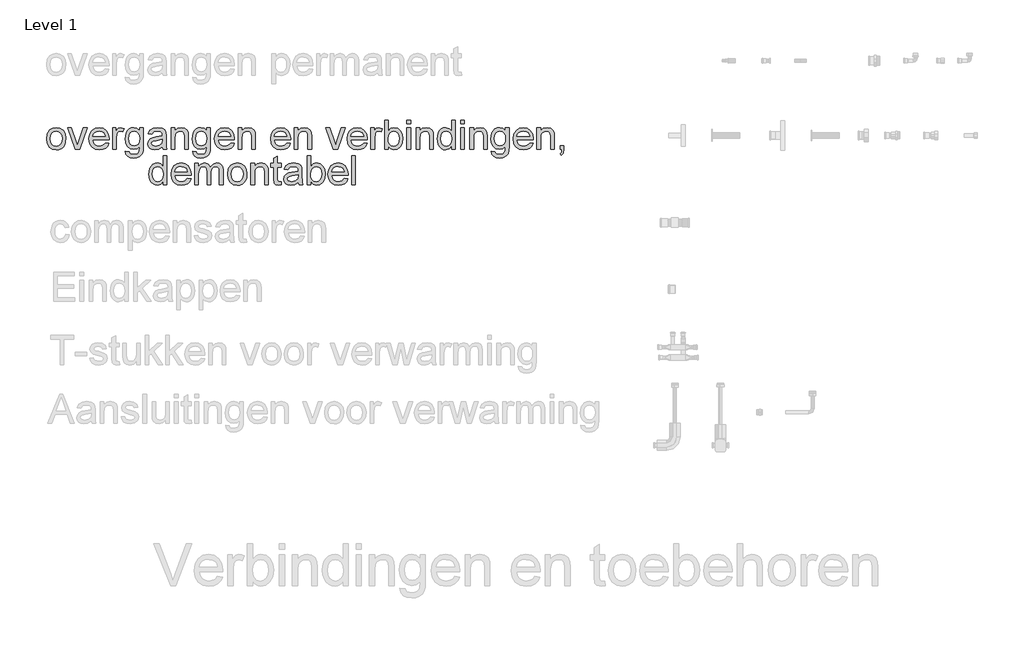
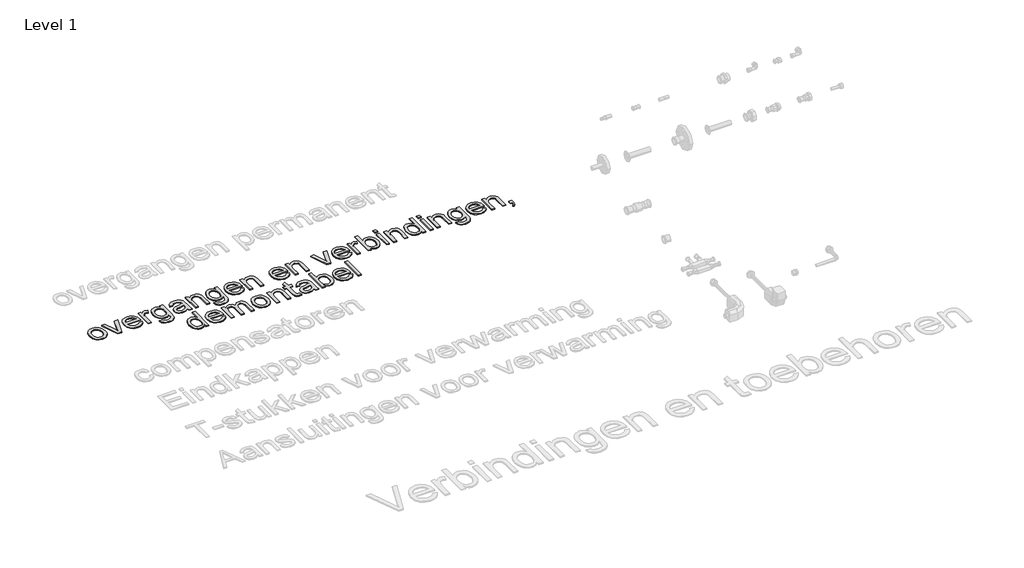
# One storey, part 7 of 8: 1 proxy.
"""IFC4 building model written with IfcOpenShell, lengths in millimetres."""

import ifcopenshell
import ifcopenshell.guid

model = None  # the IFC model being written
_history = None  # IfcOwnerHistory: only IFC2X3 demands one
_inside = {}  # id of a spatial element -> (the spatial element, [elements in it])
_under = {}  # id of a project, library or spatial element -> (it, [spatial elements below it])
_declared = {}  # id of a project -> (the project, [libraries it declares])
_typed = {}  # id of a type object -> (the type object, [elements of that type])
_made_of = {}  # id of a material, layer set ... -> (it, [elements and type objects made of it])


def new_model(schema):
    """Start an empty IFC model of exactly this schema.

    Asked for "IFC4X3", IfcOpenShell would pick the latest addendum, in which some entities
    have other attributes; the version numbers below select the first issue.
    IFC2X3 requires an IfcOwnerHistory on every rooted entity: one is made here for all.
    """
    global model, _history
    if schema == "IFC4X3":
        model = ifcopenshell.file(schema_version=(4, 3, 0, 0))
    else:
        model = ifcopenshell.file(schema=schema)
    _inside.clear()
    _under.clear()
    _declared.clear()
    _typed.clear()
    _made_of.clear()
    _history = None
    if model.schema == "IFC2X3":
        org = make("IfcOrganization", Name="unknown")
        user = make(
            "IfcPersonAndOrganization",
            ThePerson=make("IfcPerson", FamilyName="unknown"),
            TheOrganization=org,
        )
        app = make(
            "IfcApplication",
            ApplicationDeveloper=org,
            Version="unknown",
            ApplicationFullName="unknown",
            ApplicationIdentifier="unknown",
        )
        _history = make(
            "IfcOwnerHistory",
            OwningUser=user,
            OwningApplication=app,
            ChangeAction="ADDED",
            CreationDate=0,
        )
    return model


def make(cls, **values):
    """One entity of the class cls with the attributes given. An attribute that is None is left unset."""
    return model.create_entity(
        cls, **{name: value for name, value in values.items() if value is not None}
    )


def rooted(cls, **values):
    """An entity with a GlobalId (a new one), such as an element, a storey or a relation."""
    return make(cls, GlobalId=ifcopenshell.guid.new(), OwnerHistory=_history, **values)


def si_unit(unit_type, name, prefix=None):
    """IfcSIUnit, for example si_unit("LENGTHUNIT", "METRE", prefix="MILLI")."""
    return make("IfcSIUnit", UnitType=unit_type, Prefix=prefix, Name=name)


def assignment(units):
    """IfcUnitAssignment: the units of a project."""
    return None if units is None else make("IfcUnitAssignment", Units=units)


def point(xyz):
    """IfcCartesianPoint."""
    return None if xyz is None else make("IfcCartesianPoint", Coordinates=xyz)


def direction(xyz):
    """IfcDirection."""
    return None if xyz is None else make("IfcDirection", DirectionRatios=xyz)


def frame(location, z_axis=None, x_axis=None):
    """IfcAxis2Placement3D, a coordinate frame: its origin and axes. An axis left out is left unset."""
    return make(
        "IfcAxis2Placement3D",
        Location=point(location),
        Axis=direction(z_axis),
        RefDirection=direction(x_axis),
    )


def origin():
    """The frame at (0, 0, 0) with its axes left unset."""
    return frame((0.0, 0.0, 0.0))


def origin_with_axes():
    """The frame at (0, 0, 0) with the z axis (0, 0, 1) and the x axis (1, 0, 0) written out."""
    return frame((0.0, 0.0, 0.0), z_axis=(0.0, 0.0, 1.0), x_axis=(1.0, 0.0, 0.0))


def place(relative_to, where):
    """IfcLocalPlacement: puts the frame where relative to a parent placement (None: the world)."""
    return make(
        "IfcLocalPlacement", PlacementRelTo=relative_to, RelativePlacement=where
    )


def context(
    kind, dimensions, precision=None, world=None, true_north=None, identifier=None
):
    """IfcGeometricRepresentationContext, for example the 3D "Model" context."""
    return make(
        "IfcGeometricRepresentationContext",
        ContextIdentifier=identifier,
        ContextType=kind,
        CoordinateSpaceDimension=dimensions,
        Precision=precision,
        WorldCoordinateSystem=world,
        TrueNorth=true_north,
    )


def project(units=None, contexts=None):
    """IfcProject with its units and contexts."""
    return rooted(
        "IfcProject",
        Name="project",
        RepresentationContexts=contexts,
        UnitsInContext=assignment(units),
    )


def spatial(cls, under=None, at=None, **own):
    """A site, building, storey or space (cls), placed at a placement, below another one or the project."""
    s = rooted(cls, ObjectPlacement=at, **own)
    if under is not None:
        _under.setdefault(under.id(), (under, []))[1].append(s)
    return s


def polyline(points):
    """IfcPolyline through the points."""
    return make("IfcPolyline", Points=[point(p) for p in points])


def outline(outer, holes=None, kind="AREA"):
    """IfcArbitraryClosedProfileDef: a profile drawn as a closed curve; with holes, ...WithVoids."""
    if holes is None:
        return make("IfcArbitraryClosedProfileDef", ProfileType=kind, OuterCurve=outer)
    return make(
        "IfcArbitraryProfileDefWithVoids",
        ProfileType=kind,
        OuterCurve=outer,
        InnerCurves=holes,
    )


def extrude(swept, where, along, depth):
    """IfcExtrudedAreaSolid: the profile swept, set in the frame where, extruded along a direction by depth."""
    return make(
        "IfcExtrudedAreaSolid",
        SweptArea=swept,
        Position=where,
        ExtrudedDirection=direction(along),
        Depth=depth,
    )


def shape(context_of_items, identifier, shape_type, items):
    """IfcShapeRepresentation: the items that make up one representation, for example the "Body"."""
    return make(
        "IfcShapeRepresentation",
        ContextOfItems=context_of_items,
        RepresentationIdentifier=identifier,
        RepresentationType=shape_type,
        Items=items,
    )


def made_of(thing, what):
    """Note that an element or type object is made of a material, layer set ...; save() writes the relation."""
    if what is not None:
        _made_of.setdefault(what.id(), (what, []))[1].append(thing)
    return thing


def element(
    cls,
    number,
    at=None,
    inside=None,
    cuts=None,
    type_object=None,
    material=None,
    context=None,
    identifier="Body",
    shape_type=None,
    held_by="IfcProductDefinitionShape",
    body=None,
    shapes=None,
    **own,
):
    """One element of the class cls, such as IfcWall. Its Tag is "e" and its number.

    at: its placement. inside: the storey or other place that contains it. cuts: it is an
    opening in that element (IfcRelVoidsElement). A single representation is given by context,
    identifier, shape_type and body (its items); several are given by shapes. held_by: the class
    of the entity that holds the representations. save() writes the other relations.
    """
    e = rooted(cls, Tag="e%d" % number, ObjectPlacement=at, **own)
    if body is not None:
        shapes = [shape(context, identifier, shape_type, body)]
    if shapes is not None:
        e.Representation = make(held_by, Representations=shapes)
    if inside is not None:
        _inside.setdefault(inside.id(), (inside, []))[1].append(e)
    if cuts is not None:
        rooted(
            "IfcRelVoidsElement", RelatingBuildingElement=cuts, RelatedOpeningElement=e
        )
    if type_object is not None:
        _typed.setdefault(type_object.id(), (type_object, []))[1].append(e)
    return made_of(e, material)


def aggregate(whole, parts):
    """IfcRelAggregates: a whole, such as a stair, and the parts it consists of."""
    return rooted("IfcRelAggregates", RelatingObject=whole, RelatedObjects=parts)


def save(model, path):
    """Write the relations noted so far, then the file.

    IfcRelAggregates (storeys below a building ...), IfcRelContainedInSpatialStructure (elements
    in a storey), IfcRelDefinesByType, IfcRelAssociatesMaterial and IfcRelDeclares: one each for
    every whole, place, type object, material and project.
    """
    for whole, parts in _under.values():
        aggregate(whole, parts)
    for where, things in _inside.values():
        rooted(
            "IfcRelContainedInSpatialStructure",
            RelatedElements=things,
            RelatingStructure=where,
        )
    for kind, things in _typed.values():
        rooted("IfcRelDefinesByType", RelatedObjects=things, RelatingType=kind)
    for what, things in _made_of.values():
        rooted("IfcRelAssociatesMaterial", RelatedObjects=things, RelatingMaterial=what)
    for by, libraries in _declared.values():
        rooted("IfcRelDeclares", RelatingContext=by, RelatedDefinitions=libraries)
    model.write(path)


model = new_model("IFC4")

# Units and contexts
model_context = context("Model", 3, world=origin())
ifc_project = project(units=[si_unit("LENGTHUNIT", "METRE", prefix="MILLI")], contexts=[model_context])

# Site, building, storey
site = spatial("IfcSite", under=ifc_project)
building = spatial("IfcBuilding", under=site)
storey = spatial("IfcBuildingStorey", under=building, Name="Level 1", Elevation=0.0)

# Proxy
placement = place(None, origin())
element("IfcBuildingElementProxy", 1, Name="small", ObjectType="small", at=placement, inside=storey, context=model_context, shape_type="SweptSolid", body=[
    extrude(outline(polyline([(2634.8228033, 5275.2037382), (2638.6254769, 5300.1056705), (2650.0334976, 5317.6082695), (2664.1282831, 5326.1835988), (2681.0042565, 5329.0420419), (2699.4725458, 5325.5612651), (2714.2240006, 5315.1189347), (2723.8937789, 5298.5391063), (2727.1170383, 5276.6458356), (2725.6921087, 5258.8857192), (2721.4173199, 5245.3660559), (2714.4171387, 5235.2413302), (2704.8160318, 5227.6660268), (2693.412303, 5222.9405826), (2681.0042565, 5221.3654345), (2662.3127854, 5224.8333354), (2647.5784984, 5235.2370383), (2638.0117271, 5252.1645151), (2634.8228033, 5275.2037382)]), holes=[polyline([(2652.4026576, 5275.2380739), (2654.4370451, 5259.3277907), (2660.5402074, 5247.9927333), (2669.7249945, 5241.2071499), (2681.0042565, 5238.9452888), (2692.232015, 5241.2200258), (2701.3996343, 5248.0442368), (2707.5027966, 5259.5295127), (2709.537184, 5275.7874443), (2707.4899207, 5291.2341961), (2701.3481308, 5302.4147431), (2692.1676356, 5309.2003265), (2681.0042565, 5311.4621877), (2669.7249945, 5309.2089104), (2660.5402074, 5302.4490788), (2654.4370451, 5291.1397731), (2652.4026576, 5275.2380739)])]), origin_with_axes(), (0.0, 0.0, 1.0), 5.0),
    extrude(outline(polyline([(2772.2340862, 5223.5629163), (2735.9069654, 5326.8445601), (2754.5168893, 5326.8445601), (2776.5260428, 5264.9717136), (2783.1528238, 5244.164308), (2789.6422622, 5263.8043014), (2811.7887583, 5326.8445601), (2830.3986822, 5326.8445601), (2794.5179249, 5223.5629163), (2772.2340862, 5223.5629163)])), origin_with_axes(), (0.0, 0.0, 1.0), 5.0),
    extrude(outline(polyline([(2918.0919396, 5254.3276613), (2935.3284374, 5252.1301795), (2929.1179762, 5239.1427188), (2919.2078484, 5229.4343129), (2905.8212357, 5223.3826541), (2889.1813199, 5221.3654345), (2868.5541764, 5224.8462113), (2852.6825209, 5235.2885417), (2842.5620872, 5252.0142966), (2839.1886093, 5274.3453469), (2842.5964229, 5297.4274895), (2852.8198635, 5314.689739), (2868.4769212, 5325.4539662), (2888.185586, 5329.0420419), (2907.2805009, 5325.4625501), (2922.5384067, 5314.7240747), (2932.5429575, 5297.4961608), (2935.8778078, 5274.4483538), (2935.7748009, 5269.7100337), (2856.7684636, 5269.7100337), (2859.8114608, 5256.5508948), (2866.8803134, 5246.8768246), (2877.0822942, 5240.9281727), (2889.5246764, 5238.9452888), (2906.7611742, 5242.6192036), (2918.0919396, 5254.3276613)]), holes=[polyline([(2856.7684636, 5287.289888), (2918.2979536, 5287.289888), (2911.2591447, 5303.221631), (2901.0099523, 5309.4020485), (2888.1169147, 5311.4621877), (2876.2668225, 5309.8183683), (2866.4682855, 5304.8869101), (2859.6569504, 5297.2000158), (2856.7684636, 5287.289888)])]), origin_with_axes(), (0.0, 0.0, 1.0), 5.0),
    extrude(outline(polyline([(2953.4576621, 5223.5629163), (2953.4576621, 5326.8445601), (2968.8400346, 5326.8445601), (2968.8400346, 5311.5651946), (2979.7587722, 5325.6428123), (2990.7461811, 5329.0420419), (3008.3947067, 5323.6170088), (3002.5233101, 5307.8569441), (2990.162475, 5311.4621877), (2980.2223035, 5307.9942867), (2973.8873756, 5298.3803039), (2971.0375164, 5277.8475835), (2971.0375164, 5223.5629163), (2953.4576621, 5223.5629163)])), origin_with_axes(), (0.0, 0.0, 1.0), 5.0),
    extrude(outline(polyline([(3014.9871521, 5214.7729891), (3032.5670063, 5212.5755073), (3038.2667247, 5203.3048811), (3055.3315442, 5199.3906166), (3073.3234263, 5203.8199159), (3081.9073395, 5216.2494222), (3083.1090874, 5236.747807), (3070.7310845, 5226.8591389), (3055.6405651, 5223.5629163), (3037.5156323, 5227.3999255), (3024.000261, 5238.9109531), (3015.592318, 5255.7869265), (3012.7896703, 5275.718773), (3017.8198434, 5302.9641136), (3023.9745092, 5314.0244857), (3032.3781603, 5322.2435827), (3042.7432355, 5327.3424271), (3054.7821738, 5329.0420419), (3070.4649832, 5325.1964488), (3083.1090874, 5313.6596694), (3083.1090874, 5326.8445601), (3100.6889417, 5326.8445601), (3100.6889417, 5237.6748696), (3099.4871938, 5217.0863537), (3095.8819503, 5203.5280628), (3089.671489, 5194.5364137), (3080.6540882, 5187.6478234), (3069.0271778, 5183.2700276), (3054.9881877, 5181.8107624), (3038.631541, 5183.8666096), (3025.7513793, 5190.0341512), (3017.4893628, 5200.3305551), (3014.9871521, 5214.7729891)]), holes=[polyline([(3030.3695246, 5276.9205209), (3032.2451096, 5260.7956399), (3037.8718647, 5249.7095159), (3046.3313112, 5243.2844569), (3056.7049703, 5241.1427705), (3067.0013742, 5243.271581), (3075.5037403, 5249.6580125), (3081.2077506, 5260.6025018), (3083.1090874, 5276.4054861), (3081.1519552, 5291.646224), (3075.2805585, 5302.620757), (3066.6537257, 5309.25183), (3056.4302851, 5311.4621877), (3046.3913986, 5309.2861657), (3037.9748717, 5302.7580996), (3032.2708613, 5291.9466609), (3030.3695246, 5276.9205209)])]), origin_with_axes(), (0.0, 0.0, 1.0), 5.0),
    extrude(outline(polyline([(3192.9831766, 5236.747807), (3175.935525, 5224.8333354), (3157.1024194, 5221.3654345), (3142.4110519, 5223.4513254), (3131.5738614, 5229.7089981), (3124.891285, 5239.2113901), (3122.6637595, 5251.0314386), (3126.0286535, 5264.937378), (3134.8700841, 5275.0320599), (3147.1794157, 5280.8004496), (3162.3901099, 5283.4442949), (3192.8801697, 5289.4873698), (3192.9831766, 5293.4016342), (3191.7728449, 5301.2473309), (3188.1418496, 5306.380511), (3180.0214677, 5310.1917685), (3168.70787, 5311.4621877), (3150.9220018, 5308.0801258), (3142.4410956, 5296.0798152), (3124.8612413, 5298.2772969), (3132.4665884, 5315.4451234), (3147.7802896, 5325.5054697), (3170.9740231, 5329.0420419), (3192.2792957, 5325.9174975), (3204.3139421, 5318.0718008), (3209.7046396, 5306.1401615), (3210.5630309, 5290.757789), (3210.5630309, 5268.8859781), (3211.4557579, 5238.3444148), (3214.9579945, 5223.5629163), (3197.3781402, 5223.5629163), (3192.9831766, 5236.747807)]), holes=[polyline([(3192.9831766, 5271.9075155), (3164.6219273, 5266.516818), (3149.4970722, 5263.6669588), (3142.6471095, 5259.0316457), (3140.2436138, 5252.2675221), (3145.4798009, 5242.7565462), (3160.8450055, 5238.9452888), (3178.6308737, 5243.1514062), (3190.0989818, 5253.3319273), (3192.8801697, 5266.9288459), (3192.9831766, 5271.9075155)])]), origin_with_axes(), (0.0, 0.0, 1.0), 5.0),
    extrude(outline(polyline([(3234.7353305, 5223.5629163), (3234.7353305, 5326.8445601), (3252.3151848, 5326.8445601), (3252.3151848, 5312.4235859), (3265.7575929, 5324.8874279), (3284.1099994, 5329.0420419), (3300.7112875, 5325.6943158), (3312.042053, 5316.9043886), (3317.3125757, 5303.9770153), (3318.2396383, 5286.9808671), (3318.2396383, 5223.5629163), (3300.6597841, 5223.5629163), (3300.6597841, 5284.6117071), (3298.6339805, 5300.1657579), (3291.4749969, 5308.3891467), (3279.4060149, 5311.4621877), (3269.109611, 5309.7368211), (3260.3325597, 5304.5607214), (3254.3195285, 5294.5604625), (3252.3151848, 5278.3626183), (3252.3151848, 5223.5629163), (3234.7353305, 5223.5629163)])), origin_with_axes(), (0.0, 0.0, 1.0), 5.0),
    extrude(outline(polyline([(3338.0169744, 5214.7729891), (3355.5968287, 5212.5755073), (3361.2965471, 5203.3048811), (3378.3613665, 5199.3906166), (3396.3532486, 5203.8199159), (3404.9371619, 5216.2494222), (3406.1389097, 5236.747807), (3393.7609069, 5226.8591389), (3378.6703874, 5223.5629163), (3360.5454546, 5227.3999255), (3347.0300833, 5238.9109531), (3338.6221403, 5255.7869265), (3335.8194926, 5275.718773), (3340.8496658, 5302.9641136), (3347.0043315, 5314.0244857), (3355.4079826, 5322.2435827), (3365.7730578, 5327.3424271), (3377.8119961, 5329.0420419), (3393.4948055, 5325.1964488), (3406.1389097, 5313.6596694), (3406.1389097, 5326.8445601), (3423.718764, 5326.8445601), (3423.718764, 5237.6748696), (3422.5170161, 5217.0863537), (3418.9117726, 5203.5280628), (3412.7013114, 5194.5364137), (3403.6839105, 5187.6478234), (3392.0570001, 5183.2700276), (3378.01801, 5181.8107624), (3361.6613634, 5183.8666096), (3348.7812016, 5190.0341512), (3340.5191851, 5200.3305551), (3338.0169744, 5214.7729891)]), holes=[polyline([(3353.3993469, 5276.9205209), (3355.2749319, 5260.7956399), (3360.901687, 5249.7095159), (3369.3611335, 5243.2844569), (3379.7347926, 5241.1427705), (3390.0311966, 5243.271581), (3398.5335626, 5249.6580125), (3404.2375729, 5260.6025018), (3406.1389097, 5276.4054861), (3404.1817775, 5291.646224), (3398.3103809, 5302.620757), (3389.6835481, 5309.25183), (3379.4601074, 5311.4621877), (3369.4212209, 5309.2861657), (3361.004694, 5302.7580996), (3355.3006837, 5291.9466609), (3353.3993469, 5276.9205209)])]), origin_with_axes(), (0.0, 0.0, 1.0), 5.0),
    extrude(outline(polyline([(3522.3994304, 5254.3276613), (3539.6359281, 5252.1301795), (3533.4254669, 5239.1427188), (3523.5153391, 5229.4343129), (3510.1287264, 5223.3826541), (3493.4888107, 5221.3654345), (3472.8616672, 5224.8462113), (3456.9900116, 5235.2885417), (3446.8695779, 5252.0142966), (3443.4961001, 5274.3453469), (3446.9039136, 5297.4274895), (3457.1273542, 5314.689739), (3472.784412, 5325.4539662), (3492.4930767, 5329.0420419), (3511.5879917, 5325.4625501), (3526.8458974, 5314.7240747), (3536.8504483, 5297.4961608), (3540.1852986, 5274.4483538), (3540.0822916, 5269.7100337), (3461.0759543, 5269.7100337), (3464.1189516, 5256.5508948), (3471.1878041, 5246.8768246), (3481.389785, 5240.9281727), (3493.8321672, 5238.9452888), (3511.0686649, 5242.6192036), (3522.3994304, 5254.3276613)]), holes=[polyline([(3461.0759543, 5287.289888), (3522.6054443, 5287.289888), (3515.5666355, 5303.221631), (3505.3174431, 5309.4020485), (3492.4244054, 5311.4621877), (3480.5743132, 5309.8183683), (3470.7757763, 5304.8869101), (3463.9644411, 5297.2000158), (3461.0759543, 5287.289888)])]), origin_with_axes(), (0.0, 0.0, 1.0), 5.0),
    extrude(outline(polyline([(3557.7651528, 5223.5629163), (3557.7651528, 5326.8445601), (3575.3450071, 5326.8445601), (3575.3450071, 5312.4235859), (3588.7874152, 5324.8874279), (3607.1398217, 5329.0420419), (3623.7411099, 5325.6943158), (3635.0718753, 5316.9043886), (3640.342398, 5303.9770153), (3641.2694607, 5286.9808671), (3641.2694607, 5223.5629163), (3623.6896064, 5223.5629163), (3623.6896064, 5284.6117071), (3621.6638029, 5300.1657579), (3614.5048192, 5308.3891467), (3602.4358373, 5311.4621877), (3592.1394333, 5309.7368211), (3583.3623821, 5304.5607214), (3577.3493509, 5294.5604625), (3575.3450071, 5278.3626183), (3575.3450071, 5223.5629163), (3557.7651528, 5223.5629163)])), origin_with_axes(), (0.0, 0.0, 1.0), 5.0),
    extrude(outline(polyline([(3792.6896899, 5254.3276613), (3809.9261876, 5252.1301795), (3803.7157264, 5239.1427188), (3793.8055986, 5229.4343129), (3780.4189859, 5223.3826541), (3763.7790701, 5221.3654345), (3743.1519267, 5224.8462113), (3727.2802711, 5235.2885417), (3717.1598374, 5252.0142966), (3713.7863596, 5274.3453469), (3717.1941731, 5297.4274895), (3727.4176137, 5314.689739), (3743.0746715, 5325.4539662), (3762.7833362, 5329.0420419), (3781.8782512, 5325.4625501), (3797.1361569, 5314.7240747), (3807.1407078, 5297.4961608), (3810.4755581, 5274.4483538), (3810.3725511, 5269.7100337), (3731.3662138, 5269.7100337), (3734.4092111, 5256.5508948), (3741.4780636, 5246.8768246), (3751.6800445, 5240.9281727), (3764.1224267, 5238.9452888), (3781.3589244, 5242.6192036), (3792.6896899, 5254.3276613)]), holes=[polyline([(3731.3662138, 5287.289888), (3792.8957038, 5287.289888), (3785.856895, 5303.221631), (3775.6077026, 5309.4020485), (3762.7146649, 5311.4621877), (3750.8645727, 5309.8183683), (3741.0660358, 5304.8869101), (3734.2547006, 5297.2000158), (3731.3662138, 5287.289888)])]), origin_with_axes(), (0.0, 0.0, 1.0), 5.0),
    extrude(outline(polyline([(3828.0554123, 5223.5629163), (3828.0554123, 5326.8445601), (3845.6352666, 5326.8445601), (3845.6352666, 5312.4235859), (3859.0776747, 5324.8874279), (3877.4300812, 5329.0420419), (3894.0313694, 5325.6943158), (3905.3621348, 5316.9043886), (3910.6326575, 5303.9770153), (3911.5597202, 5286.9808671), (3911.5597202, 5223.5629163), (3893.9798659, 5223.5629163), (3893.9798659, 5284.6117071), (3891.9540624, 5300.1657579), (3884.7950787, 5308.3891467), (3872.7260967, 5311.4621877), (3862.4296928, 5309.7368211), (3853.6526416, 5304.5607214), (3847.6396104, 5294.5604625), (3845.6352666, 5278.3626183), (3845.6352666, 5223.5629163), (3828.0554123, 5223.5629163)])), origin_with_axes(), (0.0, 0.0, 1.0), 5.0),
    extrude(outline(polyline([(4016.0087762, 5223.5629163), (3979.6816555, 5326.8445601), (3998.2915793, 5326.8445601), (4020.3007328, 5264.9717136), (4026.9275138, 5244.164308), (4033.4169522, 5263.8043014), (4055.5634483, 5326.8445601), (4074.1733722, 5326.8445601), (4038.2926149, 5223.5629163), (4016.0087762, 5223.5629163)])), origin_with_axes(), (0.0, 0.0, 1.0), 5.0),
    extrude(outline(polyline([(4161.8666297, 5254.3276613), (4179.1031274, 5252.1301795), (4172.8926662, 5239.1427188), (4162.9825384, 5229.4343129), (4149.5959257, 5223.3826541), (4132.9560099, 5221.3654345), (4112.3288665, 5224.8462113), (4096.4572109, 5235.2885417), (4086.3367772, 5252.0142966), (4082.9632994, 5274.3453469), (4086.3711129, 5297.4274895), (4096.5945535, 5314.689739), (4112.2516113, 5325.4539662), (4131.960276, 5329.0420419), (4151.055191, 5325.4625501), (4166.3130967, 5314.7240747), (4176.3176476, 5297.4961608), (4179.6524979, 5274.4483538), (4179.5494909, 5269.7100337), (4100.5431536, 5269.7100337), (4103.5861509, 5256.5508948), (4110.6550034, 5246.8768246), (4120.8569843, 5240.9281727), (4133.2993665, 5238.9452888), (4150.5358642, 5242.6192036), (4161.8666297, 5254.3276613)]), holes=[polyline([(4100.5431536, 5287.289888), (4162.0726436, 5287.289888), (4155.0338348, 5303.221631), (4144.7846424, 5309.4020485), (4131.8916047, 5311.4621877), (4120.0415125, 5309.8183683), (4110.2429756, 5304.8869101), (4103.4316404, 5297.2000158), (4100.5431536, 5287.289888)])]), origin_with_axes(), (0.0, 0.0, 1.0), 5.0),
    extrude(outline(polyline([(4197.2323521, 5223.5629163), (4197.2323521, 5326.8445601), (4212.6147246, 5326.8445601), (4212.6147246, 5311.5651946), (4223.5334623, 5325.6428123), (4234.5208712, 5329.0420419), (4252.1693968, 5323.6170088), (4246.2980001, 5307.8569441), (4233.9371651, 5311.4621877), (4223.9969936, 5307.9942867), (4217.6620656, 5298.3803039), (4214.8122064, 5277.8475835), (4214.8122064, 5223.5629163), (4197.2323521, 5223.5629163)])), origin_with_axes(), (0.0, 0.0, 1.0), 5.0),
    extrude(outline(polyline([(4280.73666, 5223.5629163), (4263.1568057, 5223.5629163), (4263.1568057, 5364.2017505), (4280.73666, 5364.2017505), (4280.73666, 5312.0458938), (4293.0459915, 5324.7930049), (4308.3425249, 5329.0420419), (4325.9567148, 5325.2136166), (4339.6223047, 5314.4493895), (4348.0173718, 5297.7107587), (4351.0560771, 5276.7488426), (4347.9100729, 5253.2804238), (4338.4720603, 5235.8207444), (4324.6219163, 5224.979262), (4308.2395179, 5221.3654345), (4292.6082119, 5226.0264994), (4280.73666, 5240.009694), (4280.73666, 5223.5629163)]), holes=[polyline([(4280.73666, 5275.9247869), (4281.9384078, 5261.2634631), (4285.5436514, 5251.3404595), (4294.7541902, 5242.0440814), (4306.7287492, 5238.9452888), (4316.8749346, 5241.2286097), (4325.544687, 5248.0785724), (4331.4933388, 5259.4522574), (4333.4762228, 5275.3067452), (4331.574886, 5291.3929985), (4325.8708757, 5302.6379249), (4317.4715166, 5309.256122), (4307.4841336, 5311.4621877), (4297.3379481, 5309.1788667), (4288.6681958, 5302.328904), (4282.7195439, 5291.1612329), (4280.73666, 5275.9247869)])]), origin_with_axes(), (0.0, 0.0, 1.0), 5.0),
    extrude(outline(polyline([(4370.8334131, 5223.5629163), (4370.8334131, 5326.8445601), (4388.4132674, 5326.8445601), (4388.4132674, 5223.5629163), (4370.8334131, 5223.5629163)])), origin_with_axes(), (0.0, 0.0, 1.0), 5.0),
    extrude(outline(polyline([(4370.8334131, 5346.6218962), (4370.8334131, 5364.2017505), (4388.4132674, 5364.2017505), (4388.4132674, 5346.6218962), (4370.8334131, 5346.6218962)])), origin_with_axes(), (0.0, 0.0, 1.0), 5.0),
    extrude(outline(polyline([(4414.7830488, 5223.5629163), (4414.7830488, 5326.8445601), (4432.3629031, 5326.8445601), (4432.3629031, 5312.4235859), (4445.8053112, 5324.8874279), (4464.1577177, 5329.0420419), (4480.7590058, 5325.6943158), (4492.0897713, 5316.9043886), (4497.360294, 5303.9770153), (4498.2873566, 5286.9808671), (4498.2873566, 5223.5629163), (4480.7075023, 5223.5629163), (4480.7075023, 5284.6117071), (4478.6816988, 5300.1657579), (4471.5227152, 5308.3891467), (4459.4537332, 5311.4621877), (4449.1573293, 5309.7368211), (4440.380278, 5304.5607214), (4434.3672468, 5294.5604625), (4432.3629031, 5278.3626183), (4432.3629031, 5223.5629163), (4414.7830488, 5223.5629163)])), origin_with_axes(), (0.0, 0.0, 1.0), 5.0),
    extrude(outline(polyline([(4586.186628, 5223.5629163), (4586.186628, 5240.1470366), (4574.5554256, 5226.060835), (4558.4777561, 5221.3654345), (4547.112655, 5223.0650493), (4536.7089522, 5228.1638938), (4527.9018572, 5236.3057354), (4521.3265797, 5247.134342), (4515.8672109, 5275.1007312), (4520.897384, 5303.0842883), (4527.1808085, 5314.1832881), (4535.9707357, 5322.3465896), (4546.6019122, 5327.3681788), (4558.4090848, 5329.0420419), (4574.615513, 5324.2522184), (4586.186628, 5311.8055442), (4586.186628, 5364.2017505), (4603.7664823, 5364.2017505), (4603.7664823, 5223.5629163), (4586.186628, 5223.5629163)]), holes=[polyline([(4533.4470652, 5275.1694026), (4535.4299491, 5259.2677033), (4541.378601, 5247.9583976), (4550.0226016, 5241.198566), (4560.0915318, 5238.9452888), (4570.1561701, 5241.095559), (4578.5812809, 5247.5463698), (4584.2852912, 5258.4178959), (4586.186628, 5273.8303121), (4584.2509556, 5290.6805337), (4578.4439383, 5302.3632396), (4569.8042296, 5309.1874506), (4559.3704831, 5311.4621877), (4549.1985459, 5309.2775817), (4540.8635662, 5302.723764), (4535.3011904, 5291.4659618), (4533.4470652, 5275.1694026)])]), origin_with_axes(), (0.0, 0.0, 1.0), 5.0),
    extrude(outline(polyline([(4630.1362637, 5223.5629163), (4630.1362637, 5326.8445601), (4647.716118, 5326.8445601), (4647.716118, 5223.5629163), (4630.1362637, 5223.5629163)])), origin_with_axes(), (0.0, 0.0, 1.0), 5.0),
    extrude(outline(polyline([(4630.1362637, 5346.6218962), (4630.1362637, 5364.2017505), (4647.716118, 5364.2017505), (4647.716118, 5346.6218962), (4630.1362637, 5346.6218962)])), origin_with_axes(), (0.0, 0.0, 1.0), 5.0),
    extrude(outline(polyline([(4674.0858994, 5223.5629163), (4674.0858994, 5326.8445601), (4691.6657537, 5326.8445601), (4691.6657537, 5312.4235859), (4705.1081618, 5324.8874279), (4723.4605682, 5329.0420419), (4740.0618564, 5325.6943158), (4751.3926219, 5316.9043886), (4756.6631446, 5303.9770153), (4757.5902072, 5286.9808671), (4757.5902072, 5223.5629163), (4740.0103529, 5223.5629163), (4740.0103529, 5284.6117071), (4737.9845494, 5300.1657579), (4730.8255658, 5308.3891467), (4718.7565838, 5311.4621877), (4708.4601799, 5309.7368211), (4699.6831286, 5304.5607214), (4693.6700974, 5294.5604625), (4691.6657537, 5278.3626183), (4691.6657537, 5223.5629163), (4674.0858994, 5223.5629163)])), origin_with_axes(), (0.0, 0.0, 1.0), 5.0),
    extrude(outline(polyline([(4777.3675433, 5214.7729891), (4794.9473975, 5212.5755073), (4800.6471159, 5203.3048811), (4817.7119354, 5199.3906166), (4835.7038175, 5203.8199159), (4844.2877307, 5216.2494222), (4845.4894786, 5236.747807), (4833.1114757, 5226.8591389), (4818.0209563, 5223.5629163), (4799.8960235, 5227.3999255), (4786.3806521, 5238.9109531), (4777.9727091, 5255.7869265), (4775.1700615, 5275.718773), (4780.2002346, 5302.9641136), (4786.3549004, 5314.0244857), (4794.7585514, 5322.2435827), (4805.1236267, 5327.3424271), (4817.162565, 5329.0420419), (4832.8453744, 5325.1964488), (4845.4894786, 5313.6596694), (4845.4894786, 5326.8445601), (4863.0693329, 5326.8445601), (4863.0693329, 5237.6748696), (4861.867585, 5217.0863537), (4858.2623415, 5203.5280628), (4852.0518802, 5194.5364137), (4843.0344794, 5187.6478234), (4831.4075689, 5183.2700276), (4817.3685789, 5181.8107624), (4801.0119322, 5183.8666096), (4788.1317704, 5190.0341512), (4779.869754, 5200.3305551), (4777.3675433, 5214.7729891)]), holes=[polyline([(4792.7499158, 5276.9205209), (4794.6255008, 5260.7956399), (4800.2522559, 5249.7095159), (4808.7117024, 5243.2844569), (4819.0853615, 5241.1427705), (4829.3817654, 5243.271581), (4837.8841315, 5249.6580125), (4843.5881418, 5260.6025018), (4845.4894786, 5276.4054861), (4843.5323464, 5291.646224), (4837.6609497, 5302.620757), (4829.0341169, 5309.25183), (4818.8106763, 5311.4621877), (4808.7717898, 5309.2861657), (4800.3552629, 5302.7580996), (4794.6512525, 5291.9466609), (4792.7499158, 5276.9205209)])]), origin_with_axes(), (0.0, 0.0, 1.0), 5.0),
    extrude(outline(polyline([(4961.7499992, 5254.3276613), (4978.986497, 5252.1301795), (4972.7760358, 5239.1427188), (4962.865908, 5229.4343129), (4949.4792953, 5223.3826541), (4932.8393795, 5221.3654345), (4912.212236, 5224.8462113), (4896.3405805, 5235.2885417), (4886.2201468, 5252.0142966), (4882.8466689, 5274.3453469), (4886.2544825, 5297.4274895), (4896.4779231, 5314.689739), (4912.1349808, 5325.4539662), (4931.8436456, 5329.0420419), (4950.9385605, 5325.4625501), (4966.1964663, 5314.7240747), (4976.2010171, 5297.4961608), (4979.5358674, 5274.4483538), (4979.4328605, 5269.7100337), (4900.4265232, 5269.7100337), (4903.4695204, 5256.5508948), (4910.538373, 5246.8768246), (4920.7403538, 5240.9281727), (4933.182736, 5238.9452888), (4950.4192338, 5242.6192036), (4961.7499992, 5254.3276613)]), holes=[polyline([(4900.4265232, 5287.289888), (4961.9560132, 5287.289888), (4954.9172043, 5303.221631), (4944.6680119, 5309.4020485), (4931.7749743, 5311.4621877), (4919.9248821, 5309.8183683), (4910.1263451, 5304.8869101), (4903.31501, 5297.2000158), (4900.4265232, 5287.289888)])]), origin_with_axes(), (0.0, 0.0, 1.0), 5.0),
    extrude(outline(polyline([(4997.1157217, 5223.5629163), (4997.1157217, 5326.8445601), (5014.695576, 5326.8445601), (5014.695576, 5312.4235859), (5028.1379841, 5324.8874279), (5046.4903906, 5329.0420419), (5063.0916787, 5325.6943158), (5074.4224442, 5316.9043886), (5079.6929669, 5303.9770153), (5080.6200295, 5286.9808671), (5080.6200295, 5223.5629163), (5063.0401752, 5223.5629163), (5063.0401752, 5284.6117071), (5061.0143717, 5300.1657579), (5053.8553881, 5308.3891467), (5041.7864061, 5311.4621877), (5031.4900022, 5309.7368211), (5022.7129509, 5304.5607214), (5016.6999197, 5294.5604625), (5014.695576, 5278.3626183), (5014.695576, 5223.5629163), (4997.1157217, 5223.5629163)])), origin_with_axes(), (0.0, 0.0, 1.0), 5.0),
    extrude(outline(polyline([(5109.1872927, 5223.5629163), (5109.1872927, 5241.1427705), (5126.767147, 5241.1427705), (5126.767147, 5223.5629163), (5123.6082669, 5205.588202), (5113.5822563, 5194.9956531), (5109.1872927, 5201.5880984), (5115.6423955, 5209.1762777), (5117.9428842, 5223.5629163), (5109.1872927, 5223.5629163)])), origin_with_axes(), (0.0, 0.0, 1.0), 5.0),
    extrude(outline(polyline([(3197.3781402, 5052.7981713), (3197.3781402, 5069.3822916), (3185.7469378, 5055.29609), (3169.6692683, 5050.6006895), (3158.3041672, 5052.3003043), (3147.9004644, 5057.3991488), (3139.0933694, 5065.5409905), (3132.5180919, 5076.369597), (3127.0587231, 5104.3359863), (3132.0888962, 5132.3195434), (3138.3723207, 5143.4185432), (3147.1622478, 5151.5818446), (3157.7934244, 5156.6034339), (3169.600597, 5158.2772969), (3185.8070252, 5153.4874734), (3197.3781402, 5141.0407992), (3197.3781402, 5193.4370055), (3214.9579945, 5193.4370055), (3214.9579945, 5052.7981713), (3197.3781402, 5052.7981713)]), holes=[polyline([(3144.6385774, 5104.4046576), (3146.6214613, 5088.5029583), (3152.5701132, 5077.1936527), (3161.2141138, 5070.433821), (3171.283044, 5068.1805438), (3181.3476822, 5070.330814), (3189.7727931, 5076.7816248), (3195.4768034, 5087.6531509), (3197.3781402, 5103.0655671), (3195.4424678, 5119.9157888), (3189.6354505, 5131.5984947), (3180.9957418, 5138.4227057), (3170.5619953, 5140.6974427), (3160.3900581, 5138.5128368), (3152.0550784, 5131.959019), (3146.4927026, 5120.7012168), (3144.6385774, 5104.4046576)])]), origin_with_axes(), (0.0, 0.0, 1.0), 5.0),
    extrude(outline(polyline([(3313.6386608, 5083.5629163), (3330.8751586, 5081.3654345), (3324.6646974, 5068.3779738), (3314.7545696, 5058.6695679), (3301.3679569, 5052.6179091), (3284.7280411, 5050.6006895), (3264.1008977, 5054.0814663), (3248.2292421, 5064.5237967), (3238.1088084, 5081.2495517), (3234.7353305, 5103.5806019), (3238.1431441, 5126.6627446), (3248.3665847, 5143.924994), (3264.0236424, 5154.6892212), (3283.7323072, 5158.2772969), (3302.8272221, 5154.6978051), (3318.0851279, 5143.9593297), (3328.0896788, 5126.7314159), (3331.424529, 5103.6836089), (3331.3215221, 5098.9452888), (3252.3151848, 5098.9452888), (3255.358182, 5085.7861498), (3262.4270346, 5076.1120796), (3272.6290154, 5070.1634277), (3285.0713977, 5068.1805438), (3302.3078954, 5071.8544586), (3313.6386608, 5083.5629163)]), holes=[polyline([(3252.3151848, 5116.525143), (3313.8446748, 5116.525143), (3306.8058659, 5132.456886), (3296.5566735, 5138.6373035), (3283.6636359, 5140.6974427), (3271.8135437, 5139.0536233), (3262.0150067, 5134.1221651), (3255.2036716, 5126.4352709), (3252.3151848, 5116.525143)])]), origin_with_axes(), (0.0, 0.0, 1.0), 5.0),
    extrude(outline(polyline([(3349.0043833, 5052.7981713), (3349.0043833, 5156.0798152), (3366.5842376, 5156.0798152), (3366.5842376, 5139.083667), (3378.6703874, 5153.0067742), (3395.8725495, 5158.2772969), (3413.4867394, 5152.9037673), (3423.1693935, 5137.8475835), (3436.8864869, 5153.1698686), (3454.2088238, 5158.2772969), (3467.4237582, 5156.1527784), (3477.1965434, 5149.7792229), (3483.2353263, 5138.984952), (3485.248254, 5123.5982875), (3485.248254, 5052.7981713), (3467.6683997, 5052.7981713), (3467.6683997, 5116.0444439), (3466.0374562, 5130.7229355), (3460.1317239, 5137.9505904), (3450.0885454, 5140.6974427), (3440.5646937, 5138.9377405), (3432.8005442, 5133.6586338), (3427.6373204, 5124.4995984), (3425.9162458, 5111.1001099), (3425.9162458, 5052.7981713), (3408.3363915, 5052.7981713), (3408.3363915, 5118.0015761), (3404.2676166, 5135.0320599), (3398.8983789, 5139.281097), (3390.9282155, 5140.6974427), (3377.915003, 5136.9205209), (3369.2624185, 5125.8644406), (3366.5842376, 5104.8853567), (3366.5842376, 5052.7981713), (3349.0043833, 5052.7981713)])), origin_with_axes(), (0.0, 0.0, 1.0), 5.0),
    extrude(outline(polyline([(3507.2230718, 5104.4389932), (3511.0257454, 5129.3409255), (3522.433766, 5146.8435245), (3536.5285515, 5155.4188538), (3553.4045249, 5158.2772969), (3571.8728142, 5154.7965201), (3586.6242691, 5144.3541897), (3596.2940473, 5127.7743613), (3599.5173068, 5105.8810906), (3598.0923772, 5088.1209742), (3593.8175884, 5074.6013109), (3586.8174071, 5064.4765852), (3577.2163002, 5056.9012818), (3565.8125715, 5052.1758376), (3553.4045249, 5050.6006895), (3534.7130539, 5054.0685904), (3519.9787669, 5064.4722933), (3510.4119956, 5081.3997701), (3507.2230718, 5104.4389932)]), holes=[polyline([(3524.8029261, 5104.4733289), (3526.8373135, 5088.5630457), (3532.9404758, 5077.2279883), (3542.125263, 5070.4424049), (3553.4045249, 5068.1805438), (3564.6322834, 5070.4552808), (3573.7999027, 5077.2794918), (3579.903065, 5088.7647677), (3581.9374525, 5105.0226993), (3579.8901892, 5120.4694512), (3573.7483993, 5131.6499981), (3564.5679041, 5138.4355815), (3553.4045249, 5140.6974427), (3542.125263, 5138.4441654), (3532.9404758, 5131.6843338), (3526.8373135, 5120.3750281), (3524.8029261, 5104.4733289)])]), origin_with_axes(), (0.0, 0.0, 1.0), 5.0),
    extrude(outline(polyline([(3619.2946428, 5052.7981713), (3619.2946428, 5156.0798152), (3636.8744971, 5156.0798152), (3636.8744971, 5141.6588409), (3650.3169052, 5154.1226829), (3668.6693117, 5158.2772969), (3685.2705998, 5154.9295708), (3696.6013653, 5146.1396437), (3701.871888, 5133.2122703), (3702.7989506, 5116.2161222), (3702.7989506, 5052.7981713), (3685.2190964, 5052.7981713), (3685.2190964, 5113.8469621), (3683.1932928, 5129.4010129), (3676.0343092, 5137.6244017), (3663.9653272, 5140.6974427), (3653.6689233, 5138.9720761), (3644.891872, 5133.7959764), (3638.8788408, 5123.7957175), (3636.8744971, 5107.5978733), (3636.8744971, 5052.7981713), (3619.2946428, 5052.7981713)])), origin_with_axes(), (0.0, 0.0, 1.0), 5.0),
    extrude(outline(polyline([(3764.3284406, 5067.4594951), (3766.5259224, 5052.2831365), (3753.3753673, 5050.6006895), (3738.6453722, 5053.51922), (3731.2975425, 5061.1760706), (3729.168732, 5081.1250849), (3729.168732, 5138.4999609), (3715.9838413, 5138.4999609), (3715.9838413, 5156.0798152), (3729.168732, 5156.0798152), (3729.168732, 5181.1791774), (3746.7485863, 5191.5142089), (3746.7485863, 5156.0798152), (3764.3284406, 5156.0798152), (3764.3284406, 5138.4999609), (3746.7485863, 5138.4999609), (3746.7485863, 5081.6401197), (3747.6756489, 5072.5755073), (3750.6800186, 5069.3651238), (3756.67159, 5068.1805438), (3764.3284406, 5067.4594951)])), origin_with_axes(), (0.0, 0.0, 1.0), 5.0),
    extrude(outline(polyline([(3847.8327484, 5065.983062), (3830.7850967, 5054.0685904), (3811.9519911, 5050.6006895), (3797.2606237, 5052.6865804), (3786.4234332, 5058.9442532), (3779.7408568, 5068.4466451), (3777.5133313, 5080.2666936), (3780.8782253, 5094.172633), (3789.7196559, 5104.267315), (3802.0289875, 5110.0357046), (3817.2396817, 5112.6795499), (3847.7297414, 5118.7226248), (3847.8327484, 5122.6368893), (3846.6224166, 5130.4825859), (3842.9914213, 5135.615766), (3834.8710394, 5139.4270235), (3823.5574418, 5140.6974427), (3805.7715736, 5137.3153809), (3797.2906674, 5125.3150702), (3779.7108131, 5127.512552), (3787.3161602, 5144.6803784), (3802.6298614, 5154.7407247), (3825.8235949, 5158.2772969), (3847.1288675, 5155.1527525), (3859.1635139, 5147.3070558), (3864.5542114, 5135.3754165), (3865.4126027, 5119.993044), (3865.4126027, 5098.1212331), (3866.3053297, 5067.5796699), (3869.8075663, 5052.7981713), (3852.227712, 5052.7981713), (3847.8327484, 5065.983062)]), holes=[polyline([(3847.8327484, 5101.1427705), (3819.4714991, 5095.752073), (3804.346644, 5092.9022139), (3797.4966813, 5088.2669007), (3795.0931856, 5081.5027771), (3800.3293726, 5071.9918012), (3815.6945773, 5068.1805438), (3833.4804455, 5072.3866613), (3844.9485536, 5082.5671823), (3847.7297414, 5096.1641009), (3847.8327484, 5101.1427705)])]), origin_with_axes(), (0.0, 0.0, 1.0), 5.0),
    extrude(outline(polyline([(3907.1647566, 5052.7981713), (3889.5849023, 5052.7981713), (3889.5849023, 5193.4370055), (3907.1647566, 5193.4370055), (3907.1647566, 5141.2811488), (3919.4740881, 5154.0282599), (3934.7706215, 5158.2772969), (3952.3848114, 5154.4488716), (3966.0504013, 5143.6846445), (3974.4454684, 5126.9460137), (3977.4841737, 5105.9840976), (3974.3381695, 5082.5156789), (3964.9001569, 5065.0559994), (3951.0500129, 5054.214517), (3934.6676145, 5050.6006895), (3919.0363086, 5055.2617544), (3907.1647566, 5069.244949), (3907.1647566, 5052.7981713)]), holes=[polyline([(3907.1647566, 5105.1600419), (3908.3665044, 5090.4987182), (3911.971748, 5080.5757145), (3921.1822869, 5071.2793365), (3933.1568458, 5068.1805438), (3943.3030312, 5070.4638647), (3951.9727836, 5077.3138274), (3957.9214355, 5088.6875125), (3959.9043194, 5104.5420002), (3958.0029826, 5120.6282536), (3952.2989723, 5131.8731799), (3943.8996132, 5138.491377), (3933.9122302, 5140.6974427), (3923.7660448, 5138.4141218), (3915.0962924, 5131.564159), (3909.1476405, 5120.3964879), (3907.1647566, 5105.1600419)])]), origin_with_axes(), (0.0, 0.0, 1.0), 5.0),
    extrude(outline(polyline([(4069.5723947, 5083.5629163), (4086.8088925, 5081.3654345), (4080.5984313, 5068.3779738), (4070.6883034, 5058.6695679), (4057.3016908, 5052.6179091), (4040.661775, 5050.6006895), (4020.0346315, 5054.0814663), (4004.162976, 5064.5237967), (3994.0425423, 5081.2495517), (3990.6690644, 5103.5806019), (3994.0768779, 5126.6627446), (4004.3003186, 5143.924994), (4019.9573763, 5154.6892212), (4039.6660411, 5158.2772969), (4058.760956, 5154.6978051), (4074.0188618, 5143.9593297), (4084.0234126, 5126.7314159), (4087.3582629, 5103.6836089), (4087.255256, 5098.9452888), (4008.2489187, 5098.9452888), (4011.2919159, 5085.7861498), (4018.3607685, 5076.1120796), (4028.5627493, 5070.1634277), (4041.0051315, 5068.1805438), (4058.2416293, 5071.8544586), (4069.5723947, 5083.5629163)]), holes=[polyline([(4008.2489187, 5116.525143), (4069.7784086, 5116.525143), (4062.7395998, 5132.456886), (4052.4904074, 5138.6373035), (4039.5973698, 5140.6974427), (4027.7472776, 5139.0536233), (4017.9487406, 5134.1221651), (4011.1374055, 5126.4352709), (4008.2489187, 5116.525143)])]), origin_with_axes(), (0.0, 0.0, 1.0), 5.0),
    extrude(outline(polyline([(4104.9381172, 5052.7981713), (4104.9381172, 5193.4370055), (4122.5179715, 5193.4370055), (4122.5179715, 5052.7981713), (4104.9381172, 5052.7981713)])), origin_with_axes(), (0.0, 0.0, 1.0), 5.0),
])

save(model, "model.ifc")
